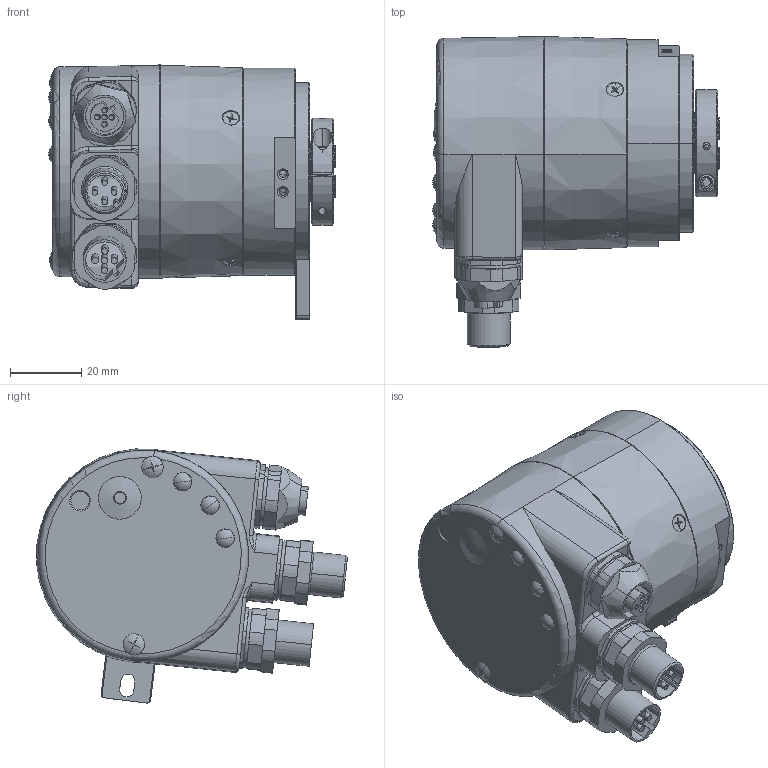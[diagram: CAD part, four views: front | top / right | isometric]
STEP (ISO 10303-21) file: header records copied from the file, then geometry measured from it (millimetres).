
FILE_DESCRIPTION (( 'STEP AP214' ), '1' );
FILE_NAME ('5878.1432.XXXX.STEP', '2008-06-03T07:31:51', ( 'admin' ), ( 'Fritz Kübler GmbH' ), 'SwSTEP 2.0', 'SolidWorks 2007', '' );
FILE_SCHEMA (( 'AUTOMOTIVE_DESIGN' ));
Length unit declared in the file: millimetre
Products named in the file (1): 5878.1432.XXXX
Bounding box: 80.4 x 87.19 x 71.26 mm (x, y, z)
Surface area: 31849.3 mm2 (no closed solid volume)
Topology: 0 solids, 31 shells, 553 faces, 1519 edges, 993 vertices
Faces by surface type: plane 245, cylinder 206, cone 67, torus 15, sphere 11, bspline 9
Entity records: 24441 total; most frequent: CARTESIAN_POINT 4164, DIRECTION 3112, ORIENTED_EDGE 2734, EDGE_CURVE 1514, AXIS2_PLACEMENT_3D 1141, VERTEX_POINT 993, VECTOR 830, LINE 830
